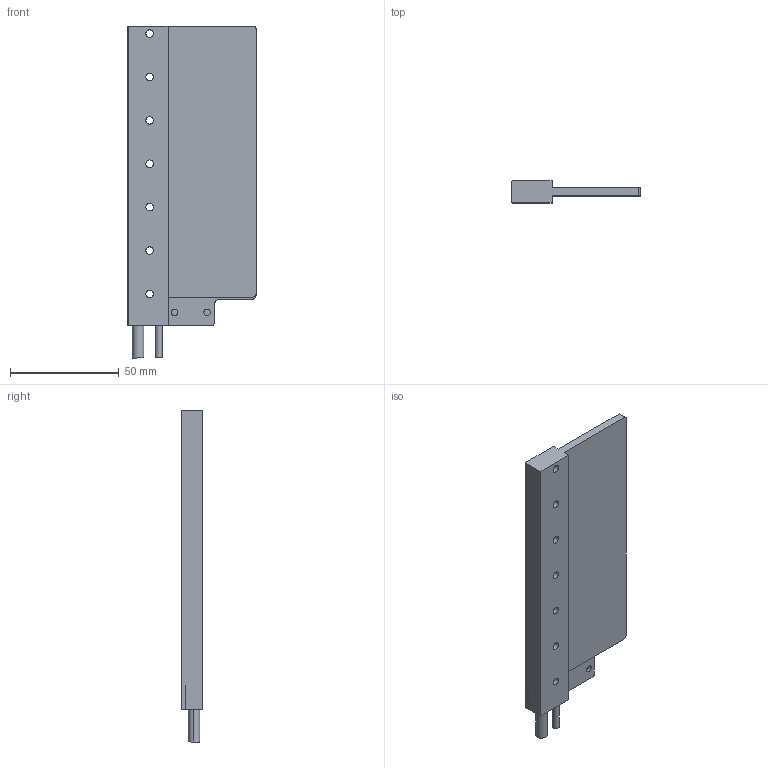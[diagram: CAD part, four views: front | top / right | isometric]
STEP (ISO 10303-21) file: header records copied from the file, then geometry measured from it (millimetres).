
FILE_DESCRIPTION (( 'STEP AP203' ), '1' );
FILE_NAME ('IL6-59 assembly 3D.STEP', '2022-10-28T06:00:31', ( '' ), ( '' ), 'SwSTEP 2.0', 'SolidWorks 2021', '' );
FILE_SCHEMA (( 'CONFIG_CONTROL_DESIGN' ));
Length unit declared in the file: millimetre
Products named in the file (1): IL6-59 assembly 3D
Bounding box: 59.1 x 10 x 153 mm (x, y, z)
Volume: 44821.3 mm3; surface area: 21332.7 mm2
Topology: 1 solids, 7 shells, 149 faces, 372 edges, 238 vertices
Faces by surface type: cylinder 68, plane 63, cone 18
Entity records: 4521 total; most frequent: DIRECTION 810, CARTESIAN_POINT 776, ORIENTED_EDGE 728, EDGE_CURVE 364, AXIS2_PLACEMENT_3D 304, VERTEX_POINT 238, LINE 202, VECTOR 202
